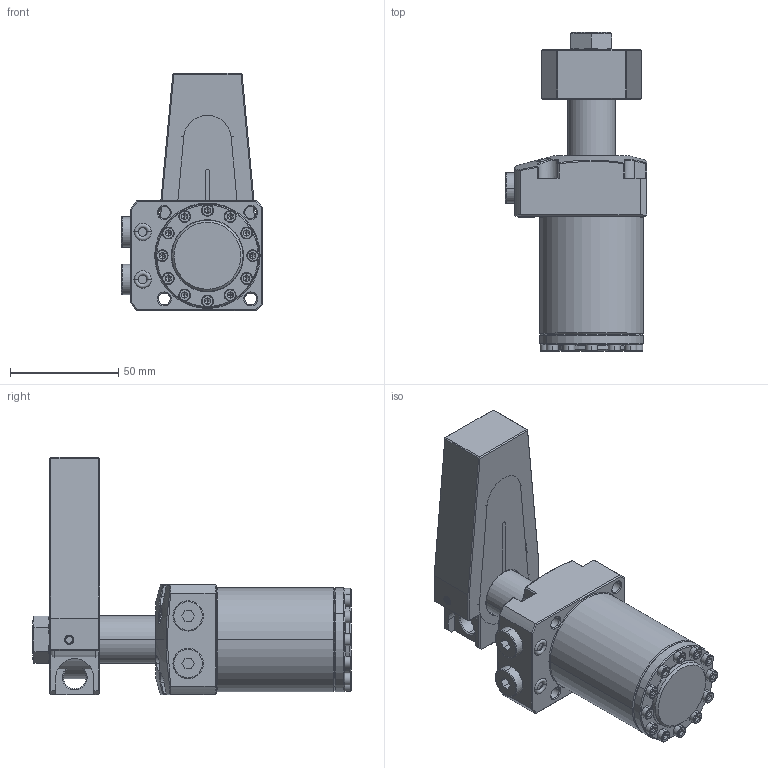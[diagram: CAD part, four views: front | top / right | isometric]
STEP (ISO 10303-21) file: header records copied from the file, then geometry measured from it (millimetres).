
FILE_DESCRIPTION((''),'2;1');
FILE_NAME('SIMP_GENERIC_SWING_CYD_48_ASM','2023-04-16T11:29:38',('Design 2'),(''),'CREO PARAMETRIC BY PTC INC, 2020053','CREO PARAMETRIC BY PTC INC, 2020053','');
FILE_SCHEMA(('CONFIG_CONTROL_DESIGN'));
Length unit declared in the file: millimetre
Products named in the file (16): BODY__; BODY_TOP_FLG___ASM; PISTON__; PISTON_ASM___ASM; SWINGER_ARM__; SWINGER_ARM_ASM___ASM; CLAMP__; HEXAGON_NUT__; CLAMP_2ND_TYPE__; 1__; 2__; HALDER-SEALING-PLUG-228800005___ASM; ISHCS03X10; STATIC-O-RING-8X2__; G-1-8-CLOSE_PLUGE; SIMP_GENERIC_SWING_CYD_48_ASM
Assembly tree (29 placements, depth 3):
  SIMP_GENERIC_SWING_CYD_48_ASM
    BODY_TOP_FLG___ASM
      BODY__
    PISTON_ASM___ASM
      PISTON__
    SWINGER_ARM_ASM___ASM
      SWINGER_ARM__
    CLAMP__
    HEXAGON_NUT__
    CLAMP_2ND_TYPE__
    HALDER-SEALING-PLUG-228800005___ASM  x2
      1__
      2__
    ISHCS03X10  x12
    STATIC-O-RING-8X2__  x2
    G-1-8-CLOSE_PLUGE  x2
Bounding box: 65.3 x 147.6 x 110 mm (x, y, z)
Volume: 324771.1 mm3; surface area: 76777.6 mm2
Topology: 26 solids, 26 shells, 1078 faces, 2482 edges, 1466 vertices
Faces by surface type: cylinder 342, plane 333, cone 272, bspline 73, torus 52, sphere 6
Entity records: 31451 total; most frequent: CARTESIAN_POINT 16204, ORIENTED_EDGE 3184, DIRECTION 2931, EDGE_CURVE 1592, AXIS2_PLACEMENT_3D 1103, VERTEX_POINT 976, EDGE_LOOP 738, VECTOR 725
